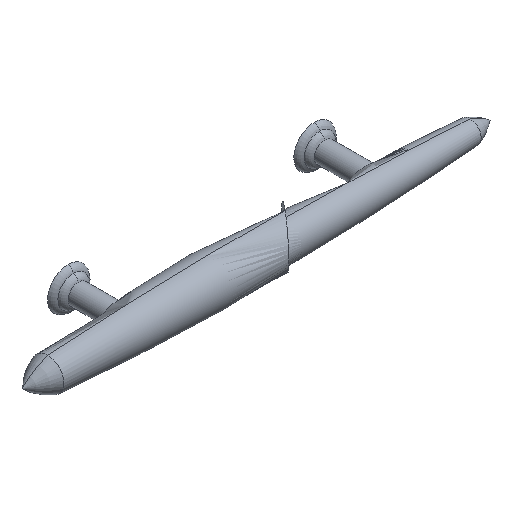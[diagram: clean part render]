
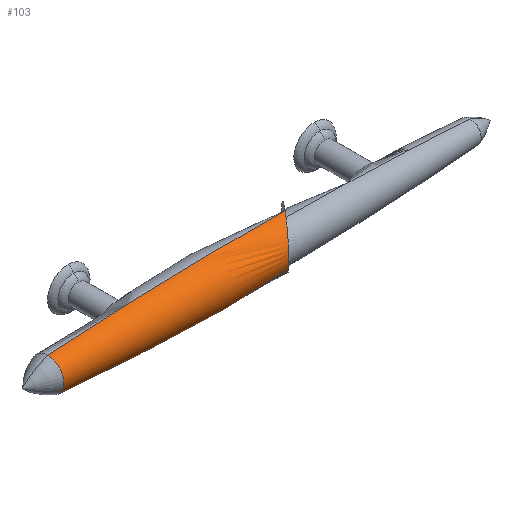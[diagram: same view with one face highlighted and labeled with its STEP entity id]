
A CAD part, isometric view. The second image highlights one B-rep face of the part: STEP entity #103.
In plain terms, the highlighted toroidal (fillet/blend) face has major radius 1207.35 mm and minor radius 1216.35 mm.
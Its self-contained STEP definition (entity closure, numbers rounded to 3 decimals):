
#103 = ADVANCED_FACE( '', ( #166 ), #167, .T. );
#166 = FACE_OUTER_BOUND( '', #229, .T. );
#167 = TOROIDAL_SURFACE( '', #230, -1207.35, 1216.35 );
#229 = EDGE_LOOP( '', ( #445, #446, #447, #448, #449, #450 ) );
#230 = AXIS2_PLACEMENT_3D( '', #451, #452, #453 );
#445 = ORIENTED_EDGE( '', *, *, #454, .T. );
#446 = ORIENTED_EDGE( '', *, *, #521, .T. );
#447 = ORIENTED_EDGE( '', *, *, #520, .T. );
#448 = ORIENTED_EDGE( '', *, *, #456, .T. );
#449 = ORIENTED_EDGE( '', *, *, #463, .T. );
#450 = ORIENTED_EDGE( '', *, *, #462, .T. );
#451 = CARTESIAN_POINT( '', ( 48., -25., 0. ) );
#452 = DIRECTION( '', ( 1., 0., 0. ) );
#453 = DIRECTION( '', ( 0., 0., -1. ) );
#454 = EDGE_CURVE( '', #522, #523, #524, .T. );
#456 = EDGE_CURVE( '', #527, #525, #528, .T. );
#462 = EDGE_CURVE( '', #537, #522, #538, .T. );
#463 = EDGE_CURVE( '', #525, #537, #539, .T. );
#520 = EDGE_CURVE( '', #633, #527, #634, .T. );
#521 = EDGE_CURVE( '', #523, #633, #635, .T. );
#522 = VERTEX_POINT( '', #636 );
#523 = VERTEX_POINT( '', #637 );
#524 = CIRCLE( '', #638, 1216.35 );
#525 = VERTEX_POINT( '', #639 );
#527 = VERTEX_POINT( '', #641 );
#528 = CIRCLE( '', #642, 1216.35 );
#537 = VERTEX_POINT( '', #764 );
#538 = CIRCLE( '', #765, 6.3 );
#539 = CIRCLE( '', #766, 6.3 );
#633 = VERTEX_POINT( '', #1043 );
#634 = B_SPLINE_CURVE_WITH_KNOTS( '', 3, ( #1044, #1045, #1046, #1047, #1048, #1049, #1050, #1051, #1052, #1053, #1054, #1055, #1056, #1057, #1058, #1059, #1060, #1061, #1062, #1063, #1064, #1065, #1066, #1067, #1068, #1069, #1070, #1071, #1072, #1073, #1074, #1075, #1076, #1077 ), .UNSPECIFIED., .F., .F., ( 4, 2, 2, 2, 2, 2, 2, 2, 2, 2, 2, 2, 2, 2, 2, 2, 4 ), ( 0., 0.763, 1.527, 2.29, 3.053, 3.932, 4.811, 5.69, 6.568, 7.602, 8.636, 9.67, 10.704, 11.878, 13.052, 14.226, 15.401 ), .UNSPECIFIED. );
#635 = B_SPLINE_CURVE_WITH_KNOTS( '', 3, ( #1078, #1079, #1080, #1081, #1082, #1083, #1084, #1085, #1086, #1087, #1088, #1089, #1090, #1091, #1092, #1093, #1094, #1095, #1096, #1097, #1098, #1099, #1100, #1101, #1102, #1103, #1104, #1105, #1106, #1107, #1108, #1109, #1110, #1111 ), .UNSPECIFIED., .F., .F., ( 4, 2, 2, 2, 2, 2, 2, 2, 2, 2, 2, 2, 2, 2, 2, 2, 4 ), ( 45.849, 47.023, 48.197, 49.372, 50.546, 51.58, 52.613, 53.647, 54.681, 55.56, 56.439, 57.318, 58.196, 58.96, 59.723, 60.486, 61.249 ), .UNSPECIFIED. );
#636 = CARTESIAN_POINT( '', ( -33., -25., -6.3 ) );
#637 = CARTESIAN_POINT( '', ( 59.609, -25., -8.945 ) );
#638 = AXIS2_PLACEMENT_3D( '', #1112, #1113, #1114 );
#639 = CARTESIAN_POINT( '', ( -33., -25., 6.3 ) );
#641 = CARTESIAN_POINT( '', ( 59.609, -25., 8.945 ) );
#642 = AXIS2_PLACEMENT_3D( '', #1118, #1119, #1120 );
#764 = CARTESIAN_POINT( '', ( -33., -31.3, 0. ) );
#765 = AXIS2_PLACEMENT_3D( '', #1127, #1128, #1129 );
#766 = AXIS2_PLACEMENT_3D( '', #1130, #1131, #1132 );
#1043 = CARTESIAN_POINT( '', ( 52.063, -33.993, 0. ) );
#1044 = CARTESIAN_POINT( '', ( 52.063, -33.993, 0. ) );
#1045 = CARTESIAN_POINT( '', ( 52.063, -33.993, 0.254 ) );
#1046 = CARTESIAN_POINT( '', ( 52.072, -33.982, 0.52 ) );
#1047 = CARTESIAN_POINT( '', ( 52.112, -33.935, 1.059 ) );
#1048 = CARTESIAN_POINT( '', ( 52.143, -33.898, 1.332 ) );
#1049 = CARTESIAN_POINT( '', ( 52.225, -33.8, 1.87 ) );
#1050 = CARTESIAN_POINT( '', ( 52.276, -33.739, 2.136 ) );
#1051 = CARTESIAN_POINT( '', ( 52.395, -33.598, 2.646 ) );
#1052 = CARTESIAN_POINT( '', ( 52.462, -33.518, 2.891 ) );
#1053 = CARTESIAN_POINT( '', ( 52.615, -33.335, 3.384 ) );
#1054 = CARTESIAN_POINT( '', ( 52.711, -33.221, 3.652 ) );
#1055 = CARTESIAN_POINT( '', ( 52.926, -32.965, 4.179 ) );
#1056 = CARTESIAN_POINT( '', ( 53.045, -32.822, 4.439 ) );
#1057 = CARTESIAN_POINT( '', ( 53.302, -32.517, 4.937 ) );
#1058 = CARTESIAN_POINT( '', ( 53.439, -32.354, 5.175 ) );
#1059 = CARTESIAN_POINT( '', ( 53.721, -32.017, 5.621 ) );
#1060 = CARTESIAN_POINT( '', ( 53.866, -31.844, 5.829 ) );
#1061 = CARTESIAN_POINT( '', ( 54.18, -31.471, 6.24 ) );
#1062 = CARTESIAN_POINT( '', ( 54.364, -31.251, 6.459 ) );
#1063 = CARTESIAN_POINT( '', ( 54.754, -30.786, 6.876 ) );
#1064 = CARTESIAN_POINT( '', ( 54.96, -30.541, 7.074 ) );
#1065 = CARTESIAN_POINT( '', ( 55.383, -30.037, 7.438 ) );
#1066 = CARTESIAN_POINT( '', ( 55.6, -29.778, 7.605 ) );
#1067 = CARTESIAN_POINT( '', ( 56.034, -29.261, 7.903 ) );
#1068 = CARTESIAN_POINT( '', ( 56.25, -29.003, 8.034 ) );
#1069 = CARTESIAN_POINT( '', ( 56.697, -28.471, 8.276 ) );
#1070 = CARTESIAN_POINT( '', ( 56.949, -28.17, 8.395 ) );
#1071 = CARTESIAN_POINT( '', ( 57.471, -27.548, 8.6 ) );
#1072 = CARTESIAN_POINT( '', ( 57.741, -27.227, 8.686 ) );
#1073 = CARTESIAN_POINT( '', ( 58.283, -26.58, 8.822 ) );
#1074 = CARTESIAN_POINT( '', ( 58.557, -26.254, 8.872 ) );
#1075 = CARTESIAN_POINT( '', ( 59.094, -25.614, 8.934 ) );
#1076 = CARTESIAN_POINT( '', ( 59.357, -25.3, 8.947 ) );
#1077 = CARTESIAN_POINT( '', ( 59.609, -25., 8.945 ) );
#1078 = CARTESIAN_POINT( '', ( 59.609, -25., -8.945 ) );
#1079 = CARTESIAN_POINT( '', ( 59.357, -25.3, -8.947 ) );
#1080 = CARTESIAN_POINT( '', ( 59.094, -25.614, -8.934 ) );
#1081 = CARTESIAN_POINT( '', ( 58.557, -26.254, -8.872 ) );
#1082 = CARTESIAN_POINT( '', ( 58.283, -26.58, -8.822 ) );
#1083 = CARTESIAN_POINT( '', ( 57.741, -27.227, -8.686 ) );
#1084 = CARTESIAN_POINT( '', ( 57.471, -27.548, -8.6 ) );
#1085 = CARTESIAN_POINT( '', ( 56.949, -28.17, -8.395 ) );
#1086 = CARTESIAN_POINT( '', ( 56.697, -28.471, -8.276 ) );
#1087 = CARTESIAN_POINT( '', ( 56.25, -29.003, -8.034 ) );
#1088 = CARTESIAN_POINT( '', ( 56.034, -29.261, -7.903 ) );
#1089 = CARTESIAN_POINT( '', ( 55.6, -29.778, -7.605 ) );
#1090 = CARTESIAN_POINT( '', ( 55.383, -30.037, -7.438 ) );
#1091 = CARTESIAN_POINT( '', ( 54.96, -30.541, -7.074 ) );
#1092 = CARTESIAN_POINT( '', ( 54.754, -30.786, -6.876 ) );
#1093 = CARTESIAN_POINT( '', ( 54.364, -31.251, -6.459 ) );
#1094 = CARTESIAN_POINT( '', ( 54.18, -31.471, -6.24 ) );
#1095 = CARTESIAN_POINT( '', ( 53.866, -31.844, -5.829 ) );
#1096 = CARTESIAN_POINT( '', ( 53.721, -32.017, -5.621 ) );
#1097 = CARTESIAN_POINT( '', ( 53.439, -32.354, -5.175 ) );
#1098 = CARTESIAN_POINT( '', ( 53.302, -32.517, -4.937 ) );
#1099 = CARTESIAN_POINT( '', ( 53.045, -32.822, -4.439 ) );
#1100 = CARTESIAN_POINT( '', ( 52.926, -32.965, -4.179 ) );
#1101 = CARTESIAN_POINT( '', ( 52.711, -33.221, -3.652 ) );
#1102 = CARTESIAN_POINT( '', ( 52.615, -33.335, -3.384 ) );
#1103 = CARTESIAN_POINT( '', ( 52.462, -33.518, -2.891 ) );
#1104 = CARTESIAN_POINT( '', ( 52.395, -33.598, -2.646 ) );
#1105 = CARTESIAN_POINT( '', ( 52.276, -33.739, -2.136 ) );
#1106 = CARTESIAN_POINT( '', ( 52.225, -33.8, -1.87 ) );
#1107 = CARTESIAN_POINT( '', ( 52.143, -33.898, -1.332 ) );
#1108 = CARTESIAN_POINT( '', ( 52.112, -33.935, -1.059 ) );
#1109 = CARTESIAN_POINT( '', ( 52.072, -33.982, -0.52 ) );
#1110 = CARTESIAN_POINT( '', ( 52.063, -33.993, -0.254 ) );
#1111 = CARTESIAN_POINT( '', ( 52.063, -33.993, 0. ) );
#1112 = CARTESIAN_POINT( '', ( 48., -25., 1207.35 ) );
#1113 = DIRECTION( '', ( 0., -1., 0. ) );
#1114 = DIRECTION( '', ( 0., 0., -1. ) );
#1118 = CARTESIAN_POINT( '', ( 48., -25., -1207.35 ) );
#1119 = DIRECTION( '', ( 0., -1., 0. ) );
#1120 = DIRECTION( '', ( 0., 0., 1. ) );
#1127 = CARTESIAN_POINT( '', ( -33., -25., 0. ) );
#1128 = DIRECTION( '', ( 1., 0., 0. ) );
#1129 = DIRECTION( '', ( 0., -1., 0. ) );
#1130 = CARTESIAN_POINT( '', ( -33., -25., 0. ) );
#1131 = DIRECTION( '', ( 1., 0., 0. ) );
#1132 = DIRECTION( '', ( 0., -1., 0. ) );
